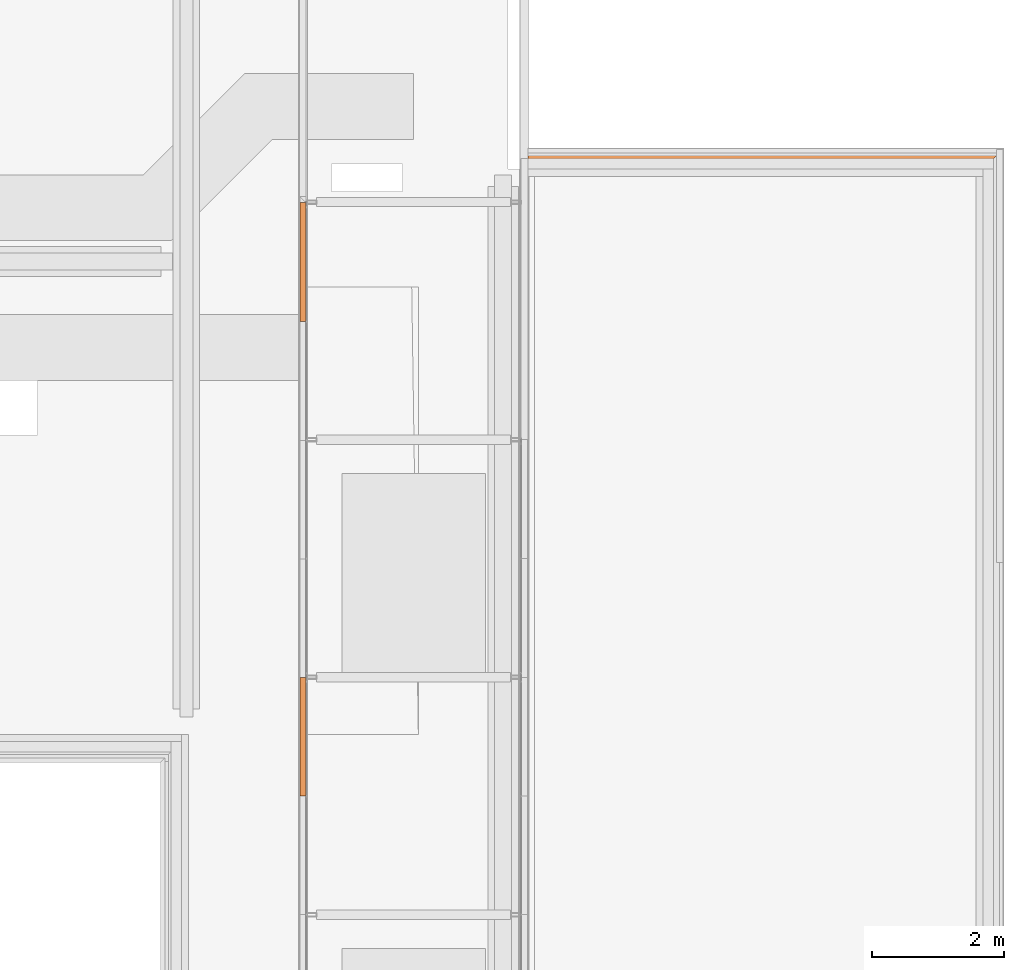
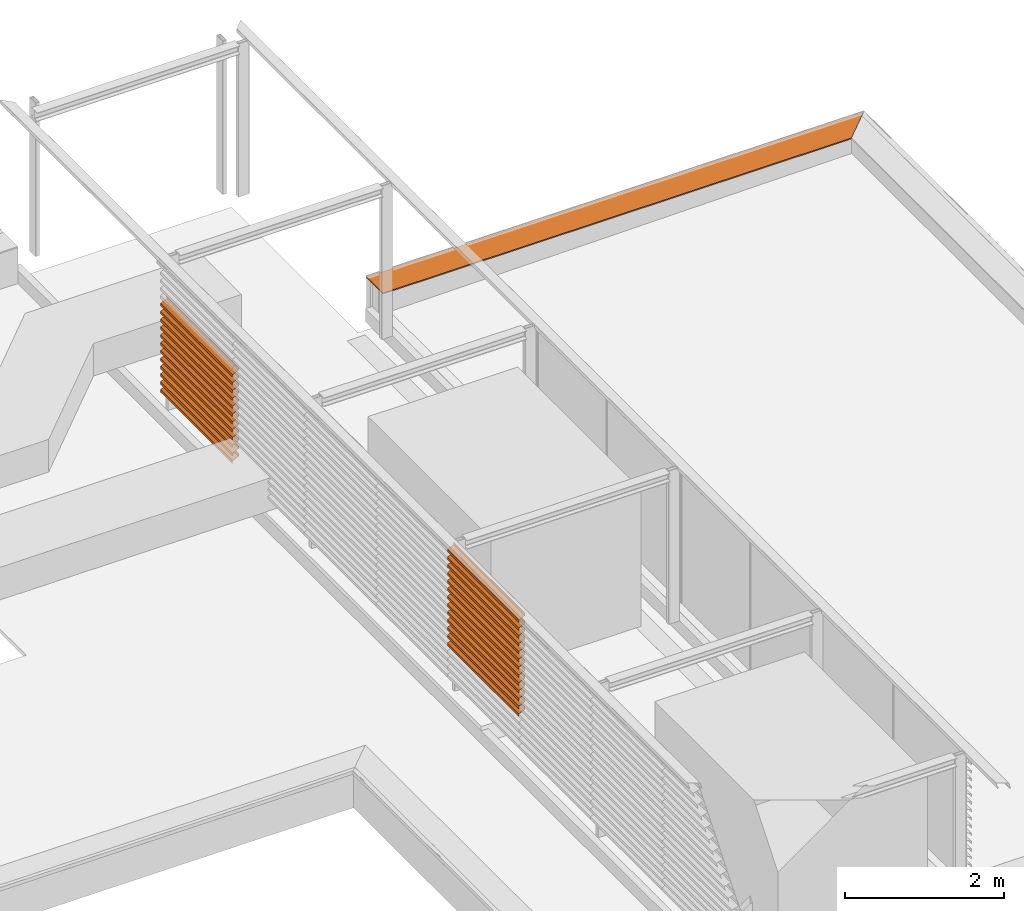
# One storey, part 27 of 32: 26 proxies.
"""IFC2X3 building model written with IfcOpenShell, lengths in millimetres."""

from ifc_helpers import new_model, entity, si_unit, converted_unit, derived_unit, direction, frame, origin, place, context, subcontext, project, spatial, polyline, outline, extrude, faceted_brep, source, transform, mapped, material, type_object, type_shapes, element, save


model = new_model("IFC2X3")

# Units and contexts
model_context = context("Model", 3, precision=0.01, world=origin(), true_north=direction((6.123031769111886e-17, 1.0)))
body_context = subcontext(model_context, "Body", "Model", "MODEL_VIEW")
ifc_project = project(units=[si_unit("LENGTHUNIT", "METRE", prefix="MILLI"), si_unit("AREAUNIT", "SQUARE_METRE"), si_unit("VOLUMEUNIT", "CUBIC_METRE"), converted_unit("PLANEANGLEUNIT", "DEGREE", entity("IfcRatioMeasure", 0.017453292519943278), si_unit("PLANEANGLEUNIT", "RADIAN"), dimensions=[0, 0, 0, 0, 0, 0, 0]), si_unit("MASSUNIT", "GRAM", prefix="KILO"), derived_unit("MASSDENSITYUNIT", [(si_unit("MASSUNIT", "GRAM", prefix="KILO"), 1), (si_unit("LENGTHUNIT", "METRE"), -3)]), derived_unit("IONCONCENTRATIONUNIT", [(si_unit("MASSUNIT", "GRAM", prefix="KILO"), 1), (si_unit("LENGTHUNIT", "METRE"), -3)]), derived_unit("MOMENTOFINERTIAUNIT", [(si_unit("LENGTHUNIT", "METRE"), 4)]), si_unit("TIMEUNIT", "SECOND"), si_unit("FREQUENCYUNIT", "HERTZ"), si_unit("THERMODYNAMICTEMPERATUREUNIT", "DEGREE_CELSIUS"), derived_unit("THERMALTRANSMITTANCEUNIT", [(si_unit("MASSUNIT", "GRAM", prefix="KILO"), 1), (si_unit("THERMODYNAMICTEMPERATUREUNIT", "KELVIN"), -1), (si_unit("TIMEUNIT", "SECOND"), -3)]), derived_unit("THERMALCONDUCTANCEUNIT", [(si_unit("MASSUNIT", "GRAM", prefix="KILO"), 1), (si_unit("THERMODYNAMICTEMPERATUREUNIT", "KELVIN"), -1), (si_unit("TIMEUNIT", "SECOND"), -3), (si_unit("LENGTHUNIT", "METRE"), 1)]), derived_unit("VOLUMETRICFLOWRATEUNIT", [(si_unit("LENGTHUNIT", "METRE"), 3), (si_unit("TIMEUNIT", "SECOND"), -1)]), derived_unit("MASSFLOWRATEUNIT", [(si_unit("MASSUNIT", "GRAM", prefix="KILO"), 1), (si_unit("TIMEUNIT", "SECOND"), -1)]), derived_unit("ROTATIONALFREQUENCYUNIT", [(si_unit("TIMEUNIT", "SECOND"), -1)]), si_unit("ELECTRICCURRENTUNIT", "AMPERE"), si_unit("ELECTRICVOLTAGEUNIT", "VOLT"), si_unit("POWERUNIT", "WATT"), si_unit("FORCEUNIT", "NEWTON", prefix="KILO"), si_unit("ILLUMINANCEUNIT", "LUX"), si_unit("LUMINOUSFLUXUNIT", "LUMEN"), si_unit("LUMINOUSINTENSITYUNIT", "CANDELA"), derived_unit("USERDEFINED", [(si_unit("MASSUNIT", "GRAM", prefix="KILO"), -1), (si_unit("LENGTHUNIT", "METRE"), -2), (si_unit("TIMEUNIT", "SECOND"), 3), (si_unit("LUMINOUSFLUXUNIT", "LUMEN"), 1)]), derived_unit("USERDEFINED", [(si_unit("MASSUNIT", "GRAM", prefix="KILO"), 1), (si_unit("TIMEUNIT", "SECOND"), -3), (si_unit("LENGTHUNIT", "METRE"), 3), (si_unit("ELECTRICCURRENTUNIT", "AMPERE"), -2)]), derived_unit("SOUNDPOWERUNIT", [(si_unit("MASSUNIT", "GRAM", prefix="KILO"), 1), (si_unit("TIMEUNIT", "SECOND"), -3), (si_unit("LENGTHUNIT", "METRE"), 2)]), derived_unit("SOUNDPRESSUREUNIT", [(si_unit("MASSUNIT", "GRAM", prefix="KILO"), 1), (si_unit("LENGTHUNIT", "METRE"), -1), (si_unit("TIMEUNIT", "SECOND"), -2)]), derived_unit("LINEARVELOCITYUNIT", [(si_unit("LENGTHUNIT", "METRE"), 1), (si_unit("TIMEUNIT", "SECOND"), -1)]), si_unit("PRESSUREUNIT", "PASCAL"), derived_unit("USERDEFINED", [(si_unit("MASSUNIT", "GRAM", prefix="KILO"), 1), (si_unit("LENGTHUNIT", "METRE"), -2), (si_unit("TIMEUNIT", "SECOND"), -2)]), derived_unit("LINEARFORCEUNIT", [(si_unit("MASSUNIT", "GRAM", prefix="KILO"), 1), (si_unit("TIMEUNIT", "SECOND"), -2)]), derived_unit("PLANARFORCEUNIT", [(si_unit("MASSUNIT", "GRAM", prefix="KILO"), 1), (si_unit("LENGTHUNIT", "METRE"), -1), (si_unit("TIMEUNIT", "SECOND"), -2)]), derived_unit("SPECIFICHEATCAPACITYUNIT", [(si_unit("THERMODYNAMICTEMPERATUREUNIT", "KELVIN"), -1), (si_unit("LENGTHUNIT", "METRE"), 2), (si_unit("TIMEUNIT", "SECOND"), -2)]), derived_unit("HEATINGVALUEUNIT", [(si_unit("LENGTHUNIT", "METRE"), 2), (si_unit("TIMEUNIT", "SECOND"), -2)]), derived_unit("VAPORPERMEABILITYUNIT", [(si_unit("LENGTHUNIT", "METRE"), -1), (si_unit("TIMEUNIT", "SECOND"), 1)]), derived_unit("DYNAMICVISCOSITYUNIT", [(si_unit("MASSUNIT", "GRAM", prefix="KILO"), 1), (si_unit("TIMEUNIT", "SECOND"), -1), (si_unit("LENGTHUNIT", "METRE"), -1)]), derived_unit("THERMALEXPANSIONCOEFFICIENTUNIT", [(si_unit("THERMODYNAMICTEMPERATUREUNIT", "KELVIN"), -1)]), derived_unit("MODULUSOFELASTICITYUNIT", [(si_unit("MASSUNIT", "GRAM", prefix="KILO"), 1), (si_unit("LENGTHUNIT", "METRE"), -1), (si_unit("TIMEUNIT", "SECOND"), -2)]), derived_unit("ISOTHERMALMOISTURECAPACITYUNIT", [(si_unit("LENGTHUNIT", "METRE"), 3), (si_unit("MASSUNIT", "GRAM", prefix="KILO"), -1)]), derived_unit("MOISTUREDIFFUSIVITYUNIT", [(si_unit("TIMEUNIT", "SECOND"), -1), (si_unit("LENGTHUNIT", "METRE"), 2)])], contexts=[model_context])

# Site, building, storey
site_placement = place(None, frame((0.0, 300.0, 0.0)))
site = spatial("IfcSite", under=ifc_project, at=site_placement, Name="<Kadastrale nummers>", CompositionType="ELEMENT")
building_placement = place(site_placement, origin())
building = spatial("IfcBuilding", under=site, at=building_placement, CompositionType="ELEMENT")
storey_placement = place(building_placement, frame((0.0, 0.0, 7150.000035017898)))
storey = spatial("IfcBuildingStorey", under=building, at=storey_placement, Name="02 tweede verdieping", CompositionType="ELEMENT", Elevation=7150.000035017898)

# Proxies
ifc_material = material(Name="ISR_Multiplex")
building_element_proxy_type_1 = type_object("IfcBuildingElementProxyType", Name="NLRS_42_GM_WBP_plaat:18x409", PredefinedType="NOTDEFINED", material=ifc_material)
shared_shape = source(origin(), body_context, "Body", "SweptSolid", [
    extrude(outline(polyline([(-3497.7499999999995, -204.49999999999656), (3293.2499999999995, -204.49999999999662), (3702.2499999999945, 204.49999999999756), (-3497.7499999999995, 204.49999999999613), (-3497.7499999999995, -204.49999999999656)])), frame((102.24999999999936, 204.50000000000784, 0.0), z_axis=(0.0, 0.0, 1.0), x_axis=(-1.0, 0.0, 0.0)), (0.0, 0.0, 1.0), 18.000000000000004),
])
type_shapes(building_element_proxy_type_1, [shared_shape])
proxy_1_placement = place(storey_placement, frame((45375.0, 47000.0, 549.9999649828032), z_axis=(0.0, 0.0, 1.0), x_axis=(-1.0, 0.0, 0.0)))
element("IfcBuildingElementProxy", 1, at=proxy_1_placement, inside=storey, type_object=building_element_proxy_type_1, material=ifc_material, Name="NLRS_42_GM_WBP_plaat:18x409", ObjectType="NLRS_42_GM_WBP_plaat:18x409", context=body_context, shape_type="MappedRepresentation", body=[
    mapped(shared_shape, transform((0.0, 0.0, 0.0), scale=1.0)),
])
building_element_proxy_type_2 = type_object("IfcBuildingElementProxyType", Name="6287130", PredefinedType="NOTDEFINED")
proxy_2_placement = place(storey_placement, origin())
element("IfcBuildingElementProxy", 2, at=proxy_2_placement, inside=storey, type_object=building_element_proxy_type_2, Name="6287130", context=body_context, shape_type="SweptSolid", body=[
    extrude(outline(polyline([(-49.282222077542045, 0.7930049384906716), (-66.18695254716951, -35.45930654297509), (-63.8042177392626, -35.081918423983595), (-48.00808155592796, -1.2069950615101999), (49.089175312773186, -1.2069950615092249), (66.09493969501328, 35.26198434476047), (64.28232412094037, 36.10722086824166), (47.8150347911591, 0.7930049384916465), (-49.282222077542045, 0.7930049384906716)])), frame((38367.0, 44387.49999984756, 1880.108860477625), z_axis=(0.0, -1.0, 0.0), x_axis=(0.9063077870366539, 0.0, 0.4226182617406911)), (0.0, 0.0, -1.0), 1807.5000001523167),
])
building_element_proxy_type_3 = type_object("IfcBuildingElementProxyType", Name="6287131", PredefinedType="NOTDEFINED")
proxy_3_placement = place(storey_placement, origin())
element("IfcBuildingElementProxy", 3, at=proxy_3_placement, inside=storey, type_object=building_element_proxy_type_3, Name="6287131", context=body_context, shape_type="SweptSolid", body=[
    extrude(outline(polyline([(-49.282222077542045, 0.7930049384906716), (-66.18695254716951, -35.45930654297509), (-63.80421773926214, -35.081918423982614), (-48.008081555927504, -1.2069950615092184), (49.08917531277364, -1.2069950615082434), (66.09493969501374, 35.26198434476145), (64.28232412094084, 36.10722086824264), (47.8150347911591, 0.7930049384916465), (-49.282222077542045, 0.7930049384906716)])), frame((38367.0, 44387.49999984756, 1760.1088604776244), z_axis=(0.0, -1.0, 0.0), x_axis=(0.9063077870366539, 0.0, 0.4226182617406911)), (0.0, 0.0, -1.0), 1807.5000001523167),
])
building_element_proxy_type_4 = type_object("IfcBuildingElementProxyType", Name="6287132", PredefinedType="NOTDEFINED")
proxy_4_placement = place(storey_placement, origin())
element("IfcBuildingElementProxy", 4, at=proxy_4_placement, inside=storey, type_object=building_element_proxy_type_4, Name="6287132", context=body_context, shape_type="SweptSolid", body=[
    extrude(outline(polyline([(-49.28222207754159, 0.7930049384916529), (-66.18695254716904, -35.45930654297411), (-63.80421773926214, -35.081918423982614), (-48.008081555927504, -1.2069950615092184), (49.08917531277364, -1.2069950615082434), (66.09493969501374, 35.26198434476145), (64.28232412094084, 36.10722086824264), (47.81503479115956, 0.7930049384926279), (-49.28222207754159, 0.7930049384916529)])), frame((38367.0, 44387.49999984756, 1640.1088604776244), z_axis=(0.0, -1.0, 0.0), x_axis=(0.9063077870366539, 0.0, 0.4226182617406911)), (0.0, 0.0, -1.0), 1807.5000001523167),
])
building_element_proxy_type_5 = type_object("IfcBuildingElementProxyType", Name="6287133", PredefinedType="NOTDEFINED")
proxy_5_placement = place(storey_placement, origin())
element("IfcBuildingElementProxy", 5, at=proxy_5_placement, inside=storey, type_object=building_element_proxy_type_5, Name="6287133", context=body_context, shape_type="SweptSolid", body=[
    extrude(outline(polyline([(-49.282222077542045, 0.7930049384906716), (-66.18695254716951, -35.45930654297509), (-63.80421773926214, -35.081918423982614), (-48.008081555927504, -1.2069950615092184), (49.08917531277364, -1.2069950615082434), (66.09493969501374, 35.26198434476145), (64.28232412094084, 36.10722086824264), (47.8150347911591, 0.7930049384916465), (-49.282222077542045, 0.7930049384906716)])), frame((38367.0, 44387.49999984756, 1520.1088604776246), z_axis=(0.0, -1.0, 0.0), x_axis=(0.9063077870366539, 0.0, 0.4226182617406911)), (0.0, 0.0, -1.0), 1807.5000001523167),
])
building_element_proxy_type_6 = type_object("IfcBuildingElementProxyType", Name="6287134", PredefinedType="NOTDEFINED")
proxy_6_placement = place(storey_placement, origin())
element("IfcBuildingElementProxy", 6, at=proxy_6_placement, inside=storey, type_object=building_element_proxy_type_6, Name="6287134", context=body_context, shape_type="SweptSolid", body=[
    extrude(outline(polyline([(-49.282222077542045, 0.7930049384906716), (-66.18695254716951, -35.45930654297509), (-63.8042177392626, -35.081918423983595), (-48.00808155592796, -1.2069950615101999), (49.089175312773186, -1.2069950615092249), (66.09493969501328, 35.26198434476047), (64.28232412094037, 36.10722086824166), (47.8150347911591, 0.7930049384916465), (-49.282222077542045, 0.7930049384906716)])), frame((38367.0, 44387.49999984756, 1400.108860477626), z_axis=(0.0, -1.0, 0.0), x_axis=(0.9063077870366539, 0.0, 0.4226182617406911)), (0.0, 0.0, -1.0), 1807.5000001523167),
])
building_element_proxy_type_7 = type_object("IfcBuildingElementProxyType", Name="6287135", PredefinedType="NOTDEFINED")
proxy_7_placement = place(storey_placement, origin())
element("IfcBuildingElementProxy", 7, at=proxy_7_placement, inside=storey, type_object=building_element_proxy_type_7, Name="6287135", context=body_context, shape_type="SweptSolid", body=[
    extrude(outline(polyline([(-49.2822220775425, 0.7930049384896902), (-66.18695254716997, -35.45930654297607), (-63.80421773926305, -35.081918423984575), (-48.00808155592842, -1.2069950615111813), (49.08917531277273, -1.2069950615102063), (66.09493969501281, 35.26198434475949), (64.28232412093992, 36.107220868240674), (47.815034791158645, 0.7930049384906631), (-49.2822220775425, 0.7930049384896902)])), frame((38367.0, 44387.49999984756, 1280.1088604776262), z_axis=(0.0, -1.0, 0.0), x_axis=(0.9063077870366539, 0.0, 0.4226182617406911)), (0.0, 0.0, -1.0), 1807.5000001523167),
])
building_element_proxy_type_8 = type_object("IfcBuildingElementProxyType", Name="6287136", PredefinedType="NOTDEFINED")
proxy_8_placement = place(storey_placement, origin())
element("IfcBuildingElementProxy", 8, at=proxy_8_placement, inside=storey, type_object=building_element_proxy_type_8, Name="6287136", context=body_context, shape_type="SweptSolid", body=[
    extrude(outline(polyline([(-49.2822220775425, 0.7930049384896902), (-66.18695254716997, -35.45930654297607), (-63.8042177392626, -35.081918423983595), (-48.00808155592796, -1.2069950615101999), (49.089175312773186, -1.2069950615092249), (66.09493969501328, 35.26198434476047), (64.28232412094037, 36.10722086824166), (47.815034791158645, 0.7930049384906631), (-49.2822220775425, 0.7930049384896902)])), frame((38367.0, 44387.49999984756, 1160.1088604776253), z_axis=(0.0, -1.0, 0.0), x_axis=(0.9063077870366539, 0.0, 0.4226182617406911)), (0.0, 0.0, -1.0), 1807.5000001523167),
])
building_element_proxy_type_9 = type_object("IfcBuildingElementProxyType", Name="6287137", PredefinedType="NOTDEFINED")
proxy_9_placement = place(storey_placement, origin())
element("IfcBuildingElementProxy", 9, at=proxy_9_placement, inside=storey, type_object=building_element_proxy_type_9, Name="6287137", context=body_context, shape_type="SweptSolid", body=[
    extrude(outline(polyline([(-49.282222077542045, 0.7930049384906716), (-66.18695254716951, -35.45930654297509), (-63.8042177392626, -35.081918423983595), (-48.00808155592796, -1.2069950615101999), (49.089175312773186, -1.2069950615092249), (66.09493969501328, 35.26198434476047), (64.28232412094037, 36.10722086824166), (47.8150347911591, 0.7930049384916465), (-49.282222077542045, 0.7930049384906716)])), frame((38367.0, 44387.49999984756, 1040.1088604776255), z_axis=(0.0, -1.0, 0.0), x_axis=(0.9063077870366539, 0.0, 0.4226182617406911)), (0.0, 0.0, -1.0), 1807.5000001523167),
])
building_element_proxy_type_10 = type_object("IfcBuildingElementProxyType", Name="6287138", PredefinedType="NOTDEFINED")
proxy_10_placement = place(storey_placement, origin())
element("IfcBuildingElementProxy", 10, at=proxy_10_placement, inside=storey, type_object=building_element_proxy_type_10, Name="6287138", context=body_context, shape_type="SweptSolid", body=[
    extrude(outline(polyline([(-49.282222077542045, 0.7930049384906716), (-66.18695254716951, -35.45930654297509), (-63.80421773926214, -35.081918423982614), (-48.008081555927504, -1.2069950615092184), (49.08917531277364, -1.2069950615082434), (66.09493969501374, 35.26198434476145), (64.28232412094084, 36.10722086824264), (47.8150347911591, 0.7930049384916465), (-49.282222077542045, 0.7930049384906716)])), frame((38367.0, 44387.49999984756, 920.1088604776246), z_axis=(0.0, -1.0, 0.0), x_axis=(0.9063077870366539, 0.0, 0.4226182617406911)), (0.0, 0.0, -1.0), 1807.5000001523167),
])
building_element_proxy_type_11 = type_object("IfcBuildingElementProxyType", Name="6287139", PredefinedType="NOTDEFINED")
proxy_11_placement = place(storey_placement, origin())
element("IfcBuildingElementProxy", 11, at=proxy_11_placement, inside=storey, type_object=building_element_proxy_type_11, Name="6287139", context=body_context, shape_type="SweptSolid", body=[
    extrude(outline(polyline([(-49.28222207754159, 0.7930049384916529), (-66.18695254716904, -35.45930654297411), (-63.80421773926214, -35.081918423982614), (-48.008081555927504, -1.2069950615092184), (49.08917531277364, -1.2069950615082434), (66.09493969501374, 35.26198434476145), (64.28232412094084, 36.10722086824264), (47.81503479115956, 0.7930049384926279), (-49.28222207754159, 0.7930049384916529)])), frame((38367.0, 44387.49999984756, 800.1088604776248), z_axis=(0.0, -1.0, 0.0), x_axis=(0.9063077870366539, 0.0, 0.4226182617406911)), (0.0, 0.0, -1.0), 1807.5000001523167),
])
building_element_proxy_type_12 = type_object("IfcBuildingElementProxyType", Name="6287140", PredefinedType="NOTDEFINED")
proxy_12_placement = place(storey_placement, origin())
element("IfcBuildingElementProxy", 12, at=proxy_12_placement, inside=storey, type_object=building_element_proxy_type_12, Name="6287140", context=body_context, shape_type="SweptSolid", body=[
    extrude(outline(polyline([(-49.282222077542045, 0.7930049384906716), (-66.18695254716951, -35.45930654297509), (-63.8042177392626, -35.081918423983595), (-48.00808155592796, -1.2069950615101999), (49.089175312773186, -1.2069950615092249), (66.09493969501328, 35.26198434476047), (64.28232412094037, 36.10722086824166), (47.8150347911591, 0.7930049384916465), (-49.282222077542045, 0.7930049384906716)])), frame((38367.0, 44387.49999984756, 680.1088604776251), z_axis=(0.0, -1.0, 0.0), x_axis=(0.9063077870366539, 0.0, 0.4226182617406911)), (0.0, 0.0, -1.0), 1807.5000001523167),
])
building_element_proxy_type_13 = type_object("IfcBuildingElementProxyType", Name="6287141", PredefinedType="NOTDEFINED")
proxy_13_placement = place(storey_placement, origin())
element("IfcBuildingElementProxy", 13, at=proxy_13_placement, inside=storey, type_object=building_element_proxy_type_13, Name="6287141", context=body_context, shape_type="SweptSolid", body=[
    extrude(outline(polyline([(-49.2822220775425, 0.7930049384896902), (-66.18695254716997, -35.45930654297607), (-63.8042177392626, -35.081918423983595), (-48.00808155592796, -1.2069950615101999), (49.089175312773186, -1.2069950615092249), (66.09493969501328, 35.26198434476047), (64.28232412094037, 36.10722086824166), (47.815034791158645, 0.7930049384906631), (-49.2822220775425, 0.7930049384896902)])), frame((38367.0, 44387.49999984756, 560.1088604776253), z_axis=(0.0, -1.0, 0.0), x_axis=(0.9063077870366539, 0.0, 0.4226182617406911)), (0.0, 0.0, -1.0), 1807.5000001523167),
])
building_element_proxy_type_14 = type_object("IfcBuildingElementProxyType", Name="6287437", PredefinedType="NOTDEFINED")
proxy_14_placement = place(storey_placement, frame((38322.0, 37197.49999984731, 2420.0)))
element("IfcBuildingElementProxy", 14, at=proxy_14_placement, inside=storey, type_object=building_element_proxy_type_14, Name="6287437", context=body_context, shape_type="Brep", body=[
    faceted_brep([(0.0, 1797.5000001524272, 40.0), (88.0, 1797.5000001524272, 81.0350739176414), (88.0, 1797.5000001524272, 120.0), (90.0, 1797.5000001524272, 120.0), (90.0, 1797.5000001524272, 79.76093339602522), (2.0, 1797.5000001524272, 38.72585947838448), (2.0, 1797.5000001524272, 1.3490170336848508), (0.0, 1797.5000001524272, 0.0), (0.0, 0.0, 40.0), (0.0, 0.0, 0.0), (2.0, 0.0, 1.3490170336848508), (2.0, 0.0, 38.725859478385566), (90.0, 0.0, 79.7609333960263), (90.0, 0.0, 120.0), (88.0, 0.0, 120.0), (88.0, 0.0, 81.03507391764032)], [[[0, 1, 2, 3, 4, 5, 6, 7]], [[8, 9, 10, 11, 12, 13, 14, 15]], [[1, 0, 8, 15]], [[2, 1, 15, 14]], [[3, 2, 14, 13]], [[4, 3, 13, 12]], [[5, 4, 12, 11]], [[6, 5, 11, 10]], [[7, 6, 10, 9]], [[0, 7, 9, 8]]]),
])
building_element_proxy_type_15 = type_object("IfcBuildingElementProxyType", Name="6287438", PredefinedType="NOTDEFINED")
proxy_15_placement = place(storey_placement, frame((38322.0, 37197.49999984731, 2300.0)))
element("IfcBuildingElementProxy", 15, at=proxy_15_placement, inside=storey, type_object=building_element_proxy_type_15, Name="6287438", context=body_context, shape_type="Brep", body=[
    faceted_brep([(0.0, 1797.5000001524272, 40.0), (88.0, 1797.5000001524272, 81.03507391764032), (88.0, 1797.5000001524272, 120.0), (90.0, 1797.5000001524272, 120.0), (90.0, 1797.5000001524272, 79.76093339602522), (2.0, 1797.5000001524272, 38.72585947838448), (2.0, 1797.5000001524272, 1.3490170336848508), (0.0, 1797.5000001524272, 0.0), (0.0, 0.0, 40.0), (0.0, 0.0, 0.0), (2.0, 0.0, 1.3490170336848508), (2.0, 0.0, 38.725859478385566), (90.0, 0.0, 79.7609333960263), (90.0, 0.0, 120.0), (88.0, 0.0, 120.0), (88.0, 0.0, 81.03507391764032)], [[[0, 1, 2, 3, 4, 5, 6, 7]], [[8, 9, 10, 11, 12, 13, 14, 15]], [[1, 0, 8, 15]], [[2, 1, 15, 14]], [[3, 2, 14, 13]], [[4, 3, 13, 12]], [[5, 4, 12, 11]], [[6, 5, 11, 10]], [[7, 6, 10, 9]], [[0, 7, 9, 8]]]),
])
building_element_proxy_type_16 = type_object("IfcBuildingElementProxyType", Name="6287439", PredefinedType="NOTDEFINED")
proxy_16_placement = place(storey_placement, frame((38322.0, 37197.49999984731, 2180.0)))
element("IfcBuildingElementProxy", 16, at=proxy_16_placement, inside=storey, type_object=building_element_proxy_type_16, Name="6287439", context=body_context, shape_type="Brep", body=[
    faceted_brep([(0.0, 1797.5000001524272, 40.0), (88.0, 1797.5000001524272, 81.0350739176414), (88.0, 1797.5000001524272, 120.0), (90.0, 1797.5000001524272, 120.0), (90.0, 1797.5000001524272, 79.76093339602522), (2.0, 1797.5000001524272, 38.72585947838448), (2.0, 1797.5000001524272, 1.3490170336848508), (0.0, 1797.5000001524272, 0.0), (0.0, 0.0, 40.0), (0.0, 0.0, 0.0), (2.0, 0.0, 1.3490170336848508), (2.0, 0.0, 38.725859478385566), (90.0, 0.0, 79.7609333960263), (90.0, 0.0, 120.0), (88.0, 0.0, 120.0), (88.0, 0.0, 81.03507391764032)], [[[0, 1, 2, 3, 4, 5, 6, 7]], [[8, 9, 10, 11, 12, 13, 14, 15]], [[1, 0, 8, 15]], [[2, 1, 15, 14]], [[3, 2, 14, 13]], [[4, 3, 13, 12]], [[5, 4, 12, 11]], [[6, 5, 11, 10]], [[7, 6, 10, 9]], [[0, 7, 9, 8]]]),
])
building_element_proxy_type_17 = type_object("IfcBuildingElementProxyType", Name="6287440", PredefinedType="NOTDEFINED")
proxy_17_placement = place(storey_placement, frame((38322.0, 37197.49999984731, 2060.0)))
element("IfcBuildingElementProxy", 17, at=proxy_17_placement, inside=storey, type_object=building_element_proxy_type_17, Name="6287440", context=body_context, shape_type="Brep", body=[
    faceted_brep([(0.0, 1797.5000001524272, 40.0), (88.0, 1797.5000001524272, 81.0350739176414), (88.0, 1797.5000001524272, 120.0), (90.0, 1797.5000001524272, 120.0), (90.0, 1797.5000001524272, 79.76093339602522), (2.0, 1797.5000001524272, 38.72585947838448), (2.0, 1797.5000001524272, 1.3490170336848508), (0.0, 1797.5000001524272, 0.0), (0.0, 0.0, 40.0), (0.0, 0.0, 0.0), (2.0, 0.0, 1.3490170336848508), (2.0, 0.0, 38.725859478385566), (90.0, 0.0, 79.7609333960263), (90.0, 0.0, 120.0), (88.0, 0.0, 120.0), (88.0, 0.0, 81.03507391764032)], [[[0, 1, 2, 3, 4, 5, 6, 7]], [[8, 9, 10, 11, 12, 13, 14, 15]], [[1, 0, 8, 15]], [[2, 1, 15, 14]], [[3, 2, 14, 13]], [[4, 3, 13, 12]], [[5, 4, 12, 11]], [[6, 5, 11, 10]], [[7, 6, 10, 9]], [[0, 7, 9, 8]]]),
])
building_element_proxy_type_18 = type_object("IfcBuildingElementProxyType", Name="6287441", PredefinedType="NOTDEFINED")
proxy_18_placement = place(storey_placement, frame((38322.0, 37197.49999984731, 1940.0)))
element("IfcBuildingElementProxy", 18, at=proxy_18_placement, inside=storey, type_object=building_element_proxy_type_18, Name="6287441", context=body_context, shape_type="Brep", body=[
    faceted_brep([(0.0, 1797.5000001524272, 40.0), (88.0, 1797.5000001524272, 81.0350739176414), (88.0, 1797.5000001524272, 120.0), (90.0, 1797.5000001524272, 120.0), (90.0, 1797.5000001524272, 79.76093339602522), (2.0, 1797.5000001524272, 38.72585947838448), (2.0, 1797.5000001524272, 1.3490170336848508), (0.0, 1797.5000001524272, 0.0), (0.0, 0.0, 40.0), (0.0, 0.0, 0.0), (2.0, 0.0, 1.3490170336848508), (2.0, 0.0, 38.725859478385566), (90.0, 0.0, 79.7609333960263), (90.0, 0.0, 120.0), (88.0, 0.0, 120.0), (88.0, 0.0, 81.03507391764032)], [[[0, 1, 2, 3, 4, 5, 6, 7]], [[8, 9, 10, 11, 12, 13, 14, 15]], [[1, 0, 8, 15]], [[2, 1, 15, 14]], [[3, 2, 14, 13]], [[4, 3, 13, 12]], [[5, 4, 12, 11]], [[6, 5, 11, 10]], [[7, 6, 10, 9]], [[0, 7, 9, 8]]]),
])
building_element_proxy_type_19 = type_object("IfcBuildingElementProxyType", Name="6287442", PredefinedType="NOTDEFINED")
proxy_19_placement = place(storey_placement, frame((38322.0, 37197.49999984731, 1820.0)))
element("IfcBuildingElementProxy", 19, at=proxy_19_placement, inside=storey, type_object=building_element_proxy_type_19, Name="6287442", context=body_context, shape_type="Brep", body=[
    faceted_brep([(0.0, 1797.5000001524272, 40.0), (88.0, 1797.5000001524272, 81.0350739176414), (88.0, 1797.5000001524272, 120.0), (90.0, 1797.5000001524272, 120.0), (90.0, 1797.5000001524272, 79.76093339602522), (2.0, 1797.5000001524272, 38.72585947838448), (2.0, 1797.5000001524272, 1.3490170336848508), (0.0, 1797.5000001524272, 0.0), (0.0, 0.0, 40.0), (0.0, 0.0, 0.0), (2.0, 0.0, 1.3490170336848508), (2.0, 0.0, 38.725859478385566), (90.0, 0.0, 79.7609333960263), (90.0, 0.0, 120.0), (88.0, 0.0, 120.0), (88.0, 0.0, 81.03507391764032)], [[[0, 1, 2, 3, 4, 5, 6, 7]], [[8, 9, 10, 11, 12, 13, 14, 15]], [[1, 0, 8, 15]], [[2, 1, 15, 14]], [[3, 2, 14, 13]], [[4, 3, 13, 12]], [[5, 4, 12, 11]], [[6, 5, 11, 10]], [[7, 6, 10, 9]], [[0, 7, 9, 8]]]),
])
building_element_proxy_type_20 = type_object("IfcBuildingElementProxyType", Name="6287443", PredefinedType="NOTDEFINED")
proxy_20_placement = place(storey_placement, frame((38322.0, 37197.49999984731, 1700.0)))
element("IfcBuildingElementProxy", 20, at=proxy_20_placement, inside=storey, type_object=building_element_proxy_type_20, Name="6287443", context=body_context, shape_type="Brep", body=[
    faceted_brep([(0.0, 1797.5000001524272, 40.0), (88.0, 1797.5000001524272, 81.03507391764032), (88.0, 1797.5000001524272, 120.0), (90.0, 1797.5000001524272, 120.0), (90.0, 1797.5000001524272, 79.76093339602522), (2.0, 1797.5000001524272, 38.72585947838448), (2.0, 1797.5000001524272, 1.3490170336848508), (0.0, 1797.5000001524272, 0.0), (0.0, 0.0, 40.0), (0.0, 0.0, 0.0), (2.0, 0.0, 1.3490170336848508), (2.0, 0.0, 38.725859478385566), (90.0, 0.0, 79.7609333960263), (90.0, 0.0, 120.0), (88.0, 0.0, 120.0), (88.0, 0.0, 81.03507391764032)], [[[0, 1, 2, 3, 4, 5, 6, 7]], [[8, 9, 10, 11, 12, 13, 14, 15]], [[1, 0, 8, 15]], [[2, 1, 15, 14]], [[3, 2, 14, 13]], [[4, 3, 13, 12]], [[5, 4, 12, 11]], [[6, 5, 11, 10]], [[7, 6, 10, 9]], [[0, 7, 9, 8]]]),
])
building_element_proxy_type_21 = type_object("IfcBuildingElementProxyType", Name="6287444", PredefinedType="NOTDEFINED")
proxy_21_placement = place(storey_placement, frame((38322.0, 37197.49999984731, 1580.0)))
element("IfcBuildingElementProxy", 21, at=proxy_21_placement, inside=storey, type_object=building_element_proxy_type_21, Name="6287444", context=body_context, shape_type="Brep", body=[
    faceted_brep([(0.0, 1797.5000001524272, 40.0), (88.0, 1797.5000001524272, 81.0350739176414), (88.0, 1797.5000001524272, 120.0), (90.0, 1797.5000001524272, 120.0), (90.0, 1797.5000001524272, 79.76093339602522), (2.0, 1797.5000001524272, 38.72585947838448), (2.0, 1797.5000001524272, 1.3490170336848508), (0.0, 1797.5000001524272, 0.0), (0.0, 0.0, 40.0), (0.0, 0.0, 0.0), (2.0, 0.0, 1.3490170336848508), (2.0, 0.0, 38.725859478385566), (90.0, 0.0, 79.7609333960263), (90.0, 0.0, 120.0), (88.0, 0.0, 120.0), (88.0, 0.0, 81.03507391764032)], [[[0, 1, 2, 3, 4, 5, 6, 7]], [[8, 9, 10, 11, 12, 13, 14, 15]], [[1, 0, 8, 15]], [[2, 1, 15, 14]], [[3, 2, 14, 13]], [[4, 3, 13, 12]], [[5, 4, 12, 11]], [[6, 5, 11, 10]], [[7, 6, 10, 9]], [[0, 7, 9, 8]]]),
])
building_element_proxy_type_22 = type_object("IfcBuildingElementProxyType", Name="6287445", PredefinedType="NOTDEFINED")
proxy_22_placement = place(storey_placement, frame((38322.0, 37197.49999984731, 1460.0)))
element("IfcBuildingElementProxy", 22, at=proxy_22_placement, inside=storey, type_object=building_element_proxy_type_22, Name="6287445", context=body_context, shape_type="Brep", body=[
    faceted_brep([(0.0, 1797.5000001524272, 40.0), (88.0, 1797.5000001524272, 81.03507391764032), (88.0, 1797.5000001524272, 120.0), (90.0, 1797.5000001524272, 120.0), (90.0, 1797.5000001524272, 79.76093339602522), (2.0, 1797.5000001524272, 38.72585947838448), (2.0, 1797.5000001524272, 1.3490170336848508), (0.0, 1797.5000001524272, 0.0), (0.0, 0.0, 40.0), (0.0, 0.0, 0.0), (2.0, 0.0, 1.3490170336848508), (2.0, 0.0, 38.725859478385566), (90.0, 0.0, 79.7609333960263), (90.0, 0.0, 120.0), (88.0, 0.0, 120.0), (88.0, 0.0, 81.03507391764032)], [[[0, 1, 2, 3, 4, 5, 6, 7]], [[8, 9, 10, 11, 12, 13, 14, 15]], [[1, 0, 8, 15]], [[2, 1, 15, 14]], [[3, 2, 14, 13]], [[4, 3, 13, 12]], [[5, 4, 12, 11]], [[6, 5, 11, 10]], [[7, 6, 10, 9]], [[0, 7, 9, 8]]]),
])
building_element_proxy_type_23 = type_object("IfcBuildingElementProxyType", Name="6287446", PredefinedType="NOTDEFINED")
proxy_23_placement = place(storey_placement, frame((38322.0, 37197.49999984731, 1340.0)))
element("IfcBuildingElementProxy", 23, at=proxy_23_placement, inside=storey, type_object=building_element_proxy_type_23, Name="6287446", context=body_context, shape_type="Brep", body=[
    faceted_brep([(0.0, 1797.5000001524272, 40.0), (88.0, 1797.5000001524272, 81.0350739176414), (88.0, 1797.5000001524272, 120.0), (90.0, 1797.5000001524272, 120.0), (90.0, 1797.5000001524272, 79.76093339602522), (2.0, 1797.5000001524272, 38.72585947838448), (2.0, 1797.5000001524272, 1.3490170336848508), (0.0, 1797.5000001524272, 0.0), (0.0, 0.0, 40.0), (0.0, 0.0, 0.0), (2.0, 0.0, 1.3490170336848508), (2.0, 0.0, 38.725859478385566), (90.0, 0.0, 79.7609333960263), (90.0, 0.0, 120.0), (88.0, 0.0, 120.0), (88.0, 0.0, 81.03507391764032)], [[[0, 1, 2, 3, 4, 5, 6, 7]], [[8, 9, 10, 11, 12, 13, 14, 15]], [[1, 0, 8, 15]], [[2, 1, 15, 14]], [[3, 2, 14, 13]], [[4, 3, 13, 12]], [[5, 4, 12, 11]], [[6, 5, 11, 10]], [[7, 6, 10, 9]], [[0, 7, 9, 8]]]),
])
building_element_proxy_type_24 = type_object("IfcBuildingElementProxyType", Name="6287447", PredefinedType="NOTDEFINED")
proxy_24_placement = place(storey_placement, frame((38322.0, 37197.49999984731, 1220.0)))
element("IfcBuildingElementProxy", 24, at=proxy_24_placement, inside=storey, type_object=building_element_proxy_type_24, Name="6287447", context=body_context, shape_type="Brep", body=[
    faceted_brep([(0.0, 1797.5000001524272, 40.0), (88.0, 1797.5000001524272, 81.0350739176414), (88.0, 1797.5000001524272, 120.0), (90.0, 1797.5000001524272, 120.0), (90.0, 1797.5000001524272, 79.76093339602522), (2.0, 1797.5000001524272, 38.72585947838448), (2.0, 1797.5000001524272, 1.3490170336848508), (0.0, 1797.5000001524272, 0.0), (0.0, 0.0, 40.0), (0.0, 0.0, 0.0), (2.0, 0.0, 1.3490170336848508), (2.0, 0.0, 38.725859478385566), (90.0, 0.0, 79.7609333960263), (90.0, 0.0, 120.0), (88.0, 0.0, 120.0), (88.0, 0.0, 81.03507391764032)], [[[0, 1, 2, 3, 4, 5, 6, 7]], [[8, 9, 10, 11, 12, 13, 14, 15]], [[1, 0, 8, 15]], [[2, 1, 15, 14]], [[3, 2, 14, 13]], [[4, 3, 13, 12]], [[5, 4, 12, 11]], [[6, 5, 11, 10]], [[7, 6, 10, 9]], [[0, 7, 9, 8]]]),
])
building_element_proxy_type_25 = type_object("IfcBuildingElementProxyType", Name="6287448", PredefinedType="NOTDEFINED")
proxy_25_placement = place(storey_placement, frame((38322.0, 37197.49999984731, 1100.0)))
element("IfcBuildingElementProxy", 25, at=proxy_25_placement, inside=storey, type_object=building_element_proxy_type_25, Name="6287448", context=body_context, shape_type="Brep", body=[
    faceted_brep([(0.0, 1797.5000001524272, 40.0), (88.0, 1797.5000001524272, 81.03507391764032), (88.0, 1797.5000001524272, 120.0), (90.0, 1797.5000001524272, 120.0), (90.0, 1797.5000001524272, 79.76093339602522), (2.0, 1797.5000001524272, 38.72585947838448), (2.0, 1797.5000001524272, 1.3490170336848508), (0.0, 1797.5000001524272, 0.0), (0.0, 0.0, 40.0), (0.0, 0.0, 0.0), (2.0, 0.0, 1.3490170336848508), (2.0, 0.0, 38.725859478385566), (90.0, 0.0, 79.7609333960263), (90.0, 0.0, 120.0), (88.0, 0.0, 120.0), (88.0, 0.0, 81.03507391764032)], [[[0, 1, 2, 3, 4, 5, 6, 7]], [[8, 9, 10, 11, 12, 13, 14, 15]], [[1, 0, 8, 15]], [[2, 1, 15, 14]], [[3, 2, 14, 13]], [[4, 3, 13, 12]], [[5, 4, 12, 11]], [[6, 5, 11, 10]], [[7, 6, 10, 9]], [[0, 7, 9, 8]]]),
])
building_element_proxy_type_26 = type_object("IfcBuildingElementProxyType", Name="6287449", PredefinedType="NOTDEFINED")
proxy_26_placement = place(storey_placement, frame((38322.0, 37197.49999984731, 980.0)))
element("IfcBuildingElementProxy", 26, at=proxy_26_placement, inside=storey, type_object=building_element_proxy_type_26, Name="6287449", context=body_context, shape_type="Brep", body=[
    faceted_brep([(0.0, 1797.5000001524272, 40.0), (88.0, 1797.5000001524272, 81.0350739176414), (88.0, 1797.5000001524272, 120.0), (90.0, 1797.5000001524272, 120.0), (90.0, 1797.5000001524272, 79.76093339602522), (2.0, 1797.5000001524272, 38.72585947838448), (2.0, 1797.5000001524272, 1.3490170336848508), (0.0, 1797.5000001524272, 0.0), (0.0, 0.0, 40.0), (0.0, 0.0, 0.0), (2.0, 0.0, 1.3490170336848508), (2.0, 0.0, 38.725859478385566), (90.0, 0.0, 79.7609333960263), (90.0, 0.0, 120.0), (88.0, 0.0, 120.0), (88.0, 0.0, 81.03507391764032)], [[[0, 1, 2, 3, 4, 5, 6, 7]], [[8, 9, 10, 11, 12, 13, 14, 15]], [[1, 0, 8, 15]], [[2, 1, 15, 14]], [[3, 2, 14, 13]], [[4, 3, 13, 12]], [[5, 4, 12, 11]], [[6, 5, 11, 10]], [[7, 6, 10, 9]], [[0, 7, 9, 8]]]),
])

save(model, "model.ifc")
